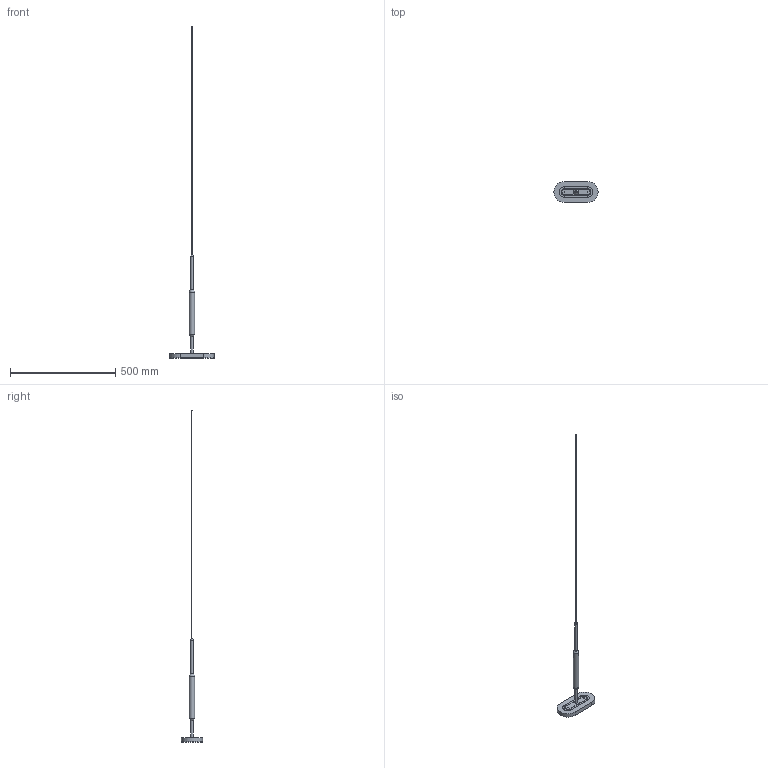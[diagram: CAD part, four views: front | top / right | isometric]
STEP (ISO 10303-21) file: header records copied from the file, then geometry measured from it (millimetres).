
FILE_DESCRIPTION(('HOOPS Exchange Step'),'2;1');
FILE_NAME('/Users/denyssokolov/Library/CloudStorage/GoogleDrive-svoyawork@gmail.com/Мій диск/Objects/PRESENTATION/46_FOG_lighting/NEW/FOG/fog_pill_210/models/FOG_pill_210.stp','2025-05-06T10:37:47+03:00',('denyssokolov'),('Unknown organisation'),'HOOPS Exchange 2024.2','HOOPS Exchange','Unknown authorisation');
FILE_SCHEMA( ('AP203_CONFIGURATION_CONTROLLED_3D_DESIGN_OF_MECHANICAL_PARTS_AND_ASSEMBLIES_MIM_LF') );
Length unit declared in the file: millimetre
Products named in the file (1): root
Bounding box: 210 x 100 x 1575.17 mm (x, y, z)
Volume: 377367.9 mm3; surface area: 138133.1 mm2
Topology: 15 solids, 15 shells, 372 faces, 884 edges, 544 vertices
Faces by surface type: plane 144, cone 144, cylinder 45, bspline 33, sphere 6
Full cylindrical faces by diameter (mm): 1.998 x12, 2 x6, 3 x12, 8 x2, 10 x5, 23 x1, 25 x1
Entity records: 13911 total; most frequent: CARTESIAN_POINT 5192, DIRECTION 1885, ORIENTED_EDGE 1764, EDGE_CURVE 882, AXIS2_PLACEMENT_3D 733, VERTEX_POINT 544, VECTOR 419, LINE 419
